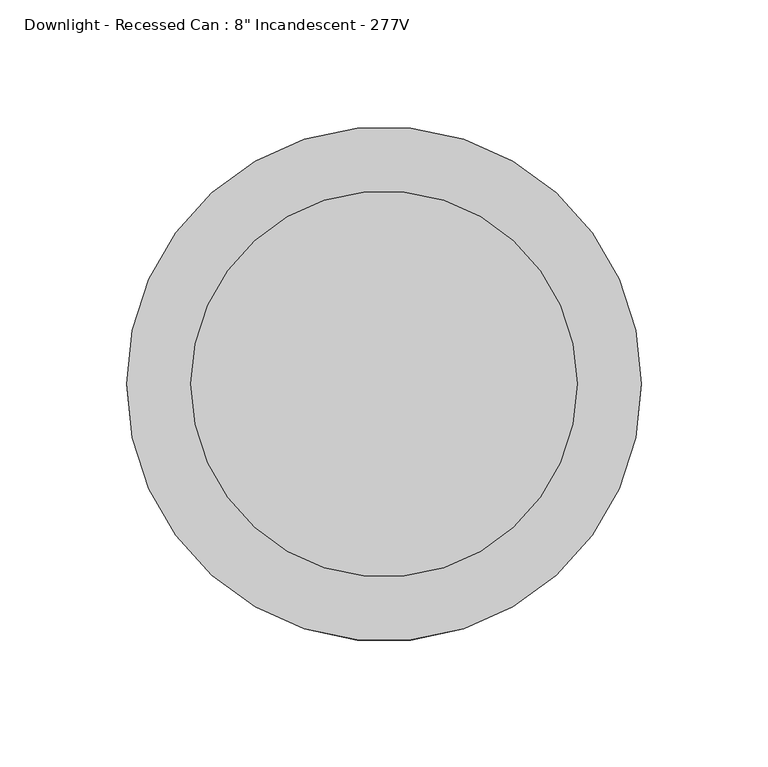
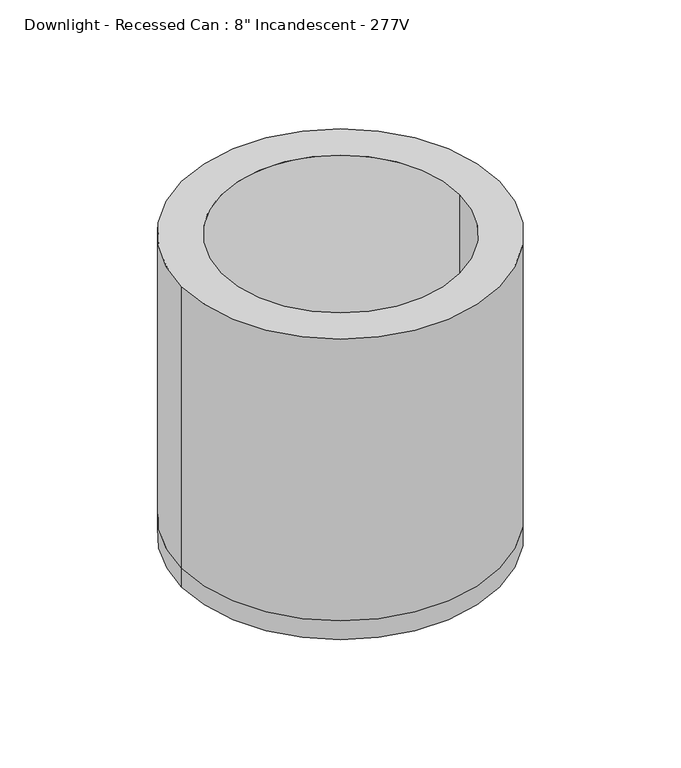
"""IFC4 building model written with IfcOpenShell, lengths in millimetres: light fixture geometry."""

import ifcopenshell
import ifcopenshell.guid

model = None  # the IFC model being written
_history = None  # IfcOwnerHistory: only IFC2X3 demands one
_inside = {}  # id of a spatial element -> (the spatial element, [elements in it])
_under = {}  # id of a project, library or spatial element -> (it, [spatial elements below it])
_declared = {}  # id of a project -> (the project, [libraries it declares])
_typed = {}  # id of a type object -> (the type object, [elements of that type])
_made_of = {}  # id of a material, layer set ... -> (it, [elements and type objects made of it])


def new_model(schema):
    """Start an empty IFC model of exactly this schema.

    Asked for "IFC4X3", IfcOpenShell would pick the latest addendum, in which some entities
    have other attributes; the version numbers below select the first issue.
    IFC2X3 requires an IfcOwnerHistory on every rooted entity: one is made here for all.
    """
    global model, _history
    if schema == "IFC4X3":
        model = ifcopenshell.file(schema_version=(4, 3, 0, 0))
    else:
        model = ifcopenshell.file(schema=schema)
    _inside.clear()
    _under.clear()
    _declared.clear()
    _typed.clear()
    _made_of.clear()
    _history = None
    if model.schema == "IFC2X3":
        org = make("IfcOrganization", Name="unknown")
        user = make(
            "IfcPersonAndOrganization",
            ThePerson=make("IfcPerson", FamilyName="unknown"),
            TheOrganization=org,
        )
        app = make(
            "IfcApplication",
            ApplicationDeveloper=org,
            Version="unknown",
            ApplicationFullName="unknown",
            ApplicationIdentifier="unknown",
        )
        _history = make(
            "IfcOwnerHistory",
            OwningUser=user,
            OwningApplication=app,
            ChangeAction="ADDED",
            CreationDate=0,
        )
    return model


def make(cls, **values):
    """One entity of the class cls with the attributes given. An attribute that is None is left unset."""
    return model.create_entity(
        cls, **{name: value for name, value in values.items() if value is not None}
    )


def rooted(cls, **values):
    """An entity with a GlobalId (a new one), such as an element, a storey or a relation."""
    return make(cls, GlobalId=ifcopenshell.guid.new(), OwnerHistory=_history, **values)


def si_unit(unit_type, name, prefix=None):
    """IfcSIUnit, for example si_unit("LENGTHUNIT", "METRE", prefix="MILLI")."""
    return make("IfcSIUnit", UnitType=unit_type, Prefix=prefix, Name=name)


def assignment(units):
    """IfcUnitAssignment: the units of a project."""
    return None if units is None else make("IfcUnitAssignment", Units=units)


def point(xyz):
    """IfcCartesianPoint."""
    return None if xyz is None else make("IfcCartesianPoint", Coordinates=xyz)


def direction(xyz):
    """IfcDirection."""
    return None if xyz is None else make("IfcDirection", DirectionRatios=xyz)


def frame(location, z_axis=None, x_axis=None):
    """IfcAxis2Placement3D, a coordinate frame: its origin and axes. An axis left out is left unset."""
    return make(
        "IfcAxis2Placement3D",
        Location=point(location),
        Axis=direction(z_axis),
        RefDirection=direction(x_axis),
    )


def frame_2d(location, x_axis=None):
    """IfcAxis2Placement2D, a coordinate frame in the plane: its origin and x axis."""
    return make(
        "IfcAxis2Placement2D", Location=point(location), RefDirection=direction(x_axis)
    )


def origin():
    """The frame at (0, 0, 0) with its axes left unset."""
    return frame((0.0, 0.0, 0.0))


def origin_2d():
    """The frame at (0, 0) in the plane with its x axis left unset."""
    return frame_2d((0.0, 0.0))


def place(relative_to, where):
    """IfcLocalPlacement: puts the frame where relative to a parent placement (None: the world)."""
    return make(
        "IfcLocalPlacement", PlacementRelTo=relative_to, RelativePlacement=where
    )


def context(
    kind, dimensions, precision=None, world=None, true_north=None, identifier=None
):
    """IfcGeometricRepresentationContext, for example the 3D "Model" context."""
    return make(
        "IfcGeometricRepresentationContext",
        ContextIdentifier=identifier,
        ContextType=kind,
        CoordinateSpaceDimension=dimensions,
        Precision=precision,
        WorldCoordinateSystem=world,
        TrueNorth=true_north,
    )


def project(units=None, contexts=None):
    """IfcProject with its units and contexts."""
    return rooted(
        "IfcProject",
        Name="project",
        RepresentationContexts=contexts,
        UnitsInContext=assignment(units),
    )


def spatial(cls, under=None, at=None, **own):
    """A site, building, storey or space (cls), placed at a placement, below another one or the project."""
    s = rooted(cls, ObjectPlacement=at, **own)
    if under is not None:
        _under.setdefault(under.id(), (under, []))[1].append(s)
    return s


def circle_curve(where, radius):
    """IfcCircle in the frame where."""
    return make("IfcCircle", Position=where, Radius=radius)


def trimmed(basis, trim1, trim2, sense, master):
    """IfcTrimmedCurve: the piece of a basis curve between two trims."""
    return make(
        "IfcTrimmedCurve",
        BasisCurve=basis,
        Trim1=trim1,
        Trim2=trim2,
        SenseAgreement=sense,
        MasterRepresentation=master,
    )


def segment(curve, same_sense, transition):
    """IfcCompositeCurveSegment."""
    return make(
        "IfcCompositeCurveSegment",
        Transition=transition,
        SameSense=same_sense,
        ParentCurve=curve,
    )


def composite_curve(segments, self_intersect=None):
    """IfcCompositeCurve: segments joined end to end."""
    return make("IfcCompositeCurve", Segments=segments, SelfIntersect=self_intersect)


def outline(outer, holes=None, kind="AREA"):
    """IfcArbitraryClosedProfileDef: a profile drawn as a closed curve; with holes, ...WithVoids."""
    if holes is None:
        return make("IfcArbitraryClosedProfileDef", ProfileType=kind, OuterCurve=outer)
    return make(
        "IfcArbitraryProfileDefWithVoids",
        ProfileType=kind,
        OuterCurve=outer,
        InnerCurves=holes,
    )


def extrude(swept, where, along, depth):
    """IfcExtrudedAreaSolid: the profile swept, set in the frame where, extruded along a direction by depth."""
    return make(
        "IfcExtrudedAreaSolid",
        SweptArea=swept,
        Position=where,
        ExtrudedDirection=direction(along),
        Depth=depth,
    )


def shape(context_of_items, identifier, shape_type, items):
    """IfcShapeRepresentation: the items that make up one representation, for example the "Body"."""
    return make(
        "IfcShapeRepresentation",
        ContextOfItems=context_of_items,
        RepresentationIdentifier=identifier,
        RepresentationType=shape_type,
        Items=items,
    )


def source(mapping_origin, context_of_items, identifier, shape_type, items):
    """IfcRepresentationMap: a shape defined once, which mapped items show again and again."""
    return make(
        "IfcRepresentationMap",
        MappingOrigin=mapping_origin,
        MappedRepresentation=shape(context_of_items, identifier, shape_type, items),
    )


def transform(
    local_origin,
    x_axis=None,
    y_axis=None,
    z_axis=None,
    scale=None,
    scale2=None,
    scale3=None,
    uniform=True,
):
    """IfcCartesianTransformationOperator3D, or its non-uniform kind. x_axis, y_axis, z_axis: its Axis1, 2, 3."""
    if uniform:
        return make(
            "IfcCartesianTransformationOperator3D",
            Axis1=direction(x_axis),
            Axis2=direction(y_axis),
            LocalOrigin=point(local_origin),
            Scale=scale,
            Axis3=direction(z_axis),
        )
    return make(
        "IfcCartesianTransformationOperator3DnonUniform",
        Axis1=direction(x_axis),
        Axis2=direction(y_axis),
        LocalOrigin=point(local_origin),
        Scale=scale,
        Axis3=direction(z_axis),
        Scale2=scale2,
        Scale3=scale3,
    )


def mapped(mapping_source, mapping_target):
    """IfcMappedItem: shows the shape of a source again, moved by a transform."""
    return make(
        "IfcMappedItem", MappingSource=mapping_source, MappingTarget=mapping_target
    )


def made_of(thing, what):
    """Note that an element or type object is made of a material, layer set ...; save() writes the relation."""
    if what is not None:
        _made_of.setdefault(what.id(), (what, []))[1].append(thing)
    return thing


def element(
    cls,
    number,
    at=None,
    inside=None,
    cuts=None,
    type_object=None,
    material=None,
    context=None,
    identifier="Body",
    shape_type=None,
    held_by="IfcProductDefinitionShape",
    body=None,
    shapes=None,
    **own,
):
    """One element of the class cls, such as IfcWall. Its Tag is "e" and its number.

    at: its placement. inside: the storey or other place that contains it. cuts: it is an
    opening in that element (IfcRelVoidsElement). A single representation is given by context,
    identifier, shape_type and body (its items); several are given by shapes. held_by: the class
    of the entity that holds the representations. save() writes the other relations.
    """
    e = rooted(cls, Tag="e%d" % number, ObjectPlacement=at, **own)
    if body is not None:
        shapes = [shape(context, identifier, shape_type, body)]
    if shapes is not None:
        e.Representation = make(held_by, Representations=shapes)
    if inside is not None:
        _inside.setdefault(inside.id(), (inside, []))[1].append(e)
    if cuts is not None:
        rooted(
            "IfcRelVoidsElement", RelatingBuildingElement=cuts, RelatedOpeningElement=e
        )
    if type_object is not None:
        _typed.setdefault(type_object.id(), (type_object, []))[1].append(e)
    return made_of(e, material)


def aggregate(whole, parts):
    """IfcRelAggregates: a whole, such as a stair, and the parts it consists of."""
    return rooted("IfcRelAggregates", RelatingObject=whole, RelatedObjects=parts)


def save(model, path):
    """Write the relations noted so far, then the file.

    IfcRelAggregates (storeys below a building ...), IfcRelContainedInSpatialStructure (elements
    in a storey), IfcRelDefinesByType, IfcRelAssociatesMaterial and IfcRelDeclares: one each for
    every whole, place, type object, material and project.
    """
    for whole, parts in _under.values():
        aggregate(whole, parts)
    for where, things in _inside.values():
        rooted(
            "IfcRelContainedInSpatialStructure",
            RelatedElements=things,
            RelatingStructure=where,
        )
    for kind, things in _typed.values():
        rooted("IfcRelDefinesByType", RelatedObjects=things, RelatingType=kind)
    for what, things in _made_of.values():
        rooted("IfcRelAssociatesMaterial", RelatedObjects=things, RelatingMaterial=what)
    for by, libraries in _declared.values():
        rooted("IfcRelDeclares", RelatingContext=by, RelatedDefinitions=libraries)
    model.write(path)


def light_fixture_0a2228b3(model_context):
    return source(origin(), model_context, "Body", "SweptSolid", [
        extrude(outline(composite_curve([segment(trimmed(circle_curve(origin_2d(), 101.6), [point((-101.6, 0.0))], [point((101.6, 0.0))], False, "CARTESIAN"), True, "CONTINUOUS"), segment(trimmed(circle_curve(origin_2d(), 101.6), [point((101.6, 0.0))], [point((-101.6, 0.0))], False, "CARTESIAN"), True, "CONTINUOUS")], self_intersect=False), holes=[composite_curve([segment(trimmed(circle_curve(origin_2d(), 76.2), [point((-76.2, 0.0))], [point((76.2, 0.0))], True, "CARTESIAN"), True, "CONTINUOUS"), segment(trimmed(circle_curve(origin_2d(), 76.2), [point((76.2, 0.0))], [point((-76.2, 0.0))], True, "CARTESIAN"), True, "CONTINUOUS")], self_intersect=False)]), frame((0.0, 0.0, -190.5), z_axis=(0.0, 0.0, 1.0), x_axis=(1.0, 0.0, 0.0)), (0.0, 0.0, 1.0), 190.5),
        extrude(outline(composite_curve([segment(trimmed(circle_curve(origin_2d(), 101.6), [point((-101.6, 0.0))], [point((101.6, 0.0))], False, "CARTESIAN"), True, "CONTINUOUS"), segment(trimmed(circle_curve(origin_2d(), 101.6), [point((101.6, 0.0))], [point((-101.6, 0.0))], False, "CARTESIAN"), True, "CONTINUOUS")], self_intersect=False)), frame((0.0, 0.0, -203.2), z_axis=(0.0, 0.0, 1.0), x_axis=(1.0, 0.0, 0.0)), (0.0, 0.0, 1.0), 12.7),
    ])


if __name__ == "__main__":
    model = new_model("IFC4")
    model_context = context("Model", 3, world=origin())
    ifc_project = project(units=[si_unit("LENGTHUNIT", "METRE", prefix="MILLI")], contexts=[model_context])
    site = spatial("IfcSite", under=ifc_project)
    building = spatial("IfcBuilding", under=site)
    placement = place(None, origin())
    light_fixture_shape = light_fixture_0a2228b3(model_context)
    element("IfcLightFixture", 1, ObjectType="Downlight - Recessed Can : 8\" Incandescent - 277V", at=placement, inside=building, context=model_context, shape_type="MappedRepresentation", body=[
        mapped(light_fixture_shape, transform((0.0, 0.0, 0.0), x_axis=(1.0, 0.0, 0.0), y_axis=(0.0, 1.0, 0.0), z_axis=(0.0, 0.0, 1.0))),
    ])
    save(model, "model.ifc")
